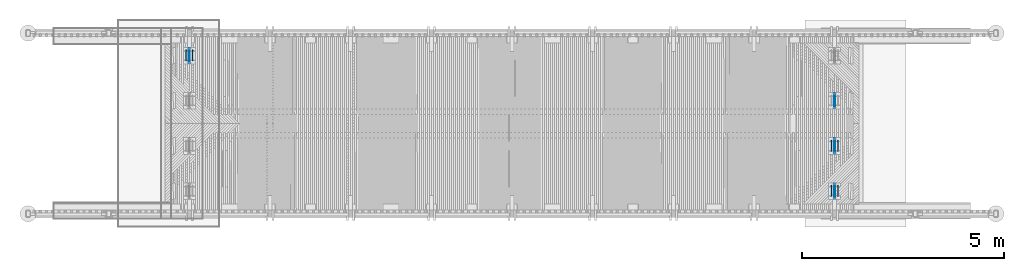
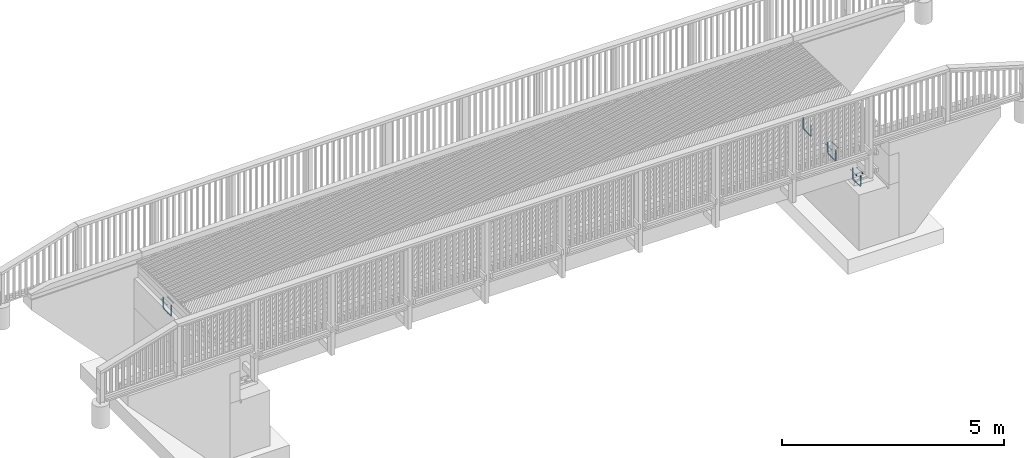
# One storey, part 2 of 52: 8 reinforcing bars, 3 mechanical fasteners.
"""IFC2X3 building model written with IfcOpenShell, lengths in millimetres."""

from ifc_helpers import new_model, si_unit, frame, origin_with_axes, place, context, subcontext, project, spatial, faceted_brep, source, transform, mapped, material, type_object, element, save


model = new_model("IFC2X3")

# Units and contexts
model_context = context("Model", 3, precision=1e-05, world=origin_with_axes())
body_context = subcontext(model_context, "Body", "Model", "MODEL_VIEW")
ifc_project = project(units=[si_unit("LENGTHUNIT", "METRE", prefix="MILLI"), si_unit("AREAUNIT", "SQUARE_METRE"), si_unit("VOLUMEUNIT", "CUBIC_METRE"), si_unit("MASSUNIT", "GRAM", prefix="KILO"), si_unit("TIMEUNIT", "SECOND"), si_unit("PLANEANGLEUNIT", "RADIAN"), si_unit("SOLIDANGLEUNIT", "STERADIAN"), si_unit("THERMODYNAMICTEMPERATUREUNIT", "DEGREE_CELSIUS"), si_unit("LUMINOUSINTENSITYUNIT", "LUMEN")], contexts=[model_context])

# Site, building, storey
site_placement = place(None, origin_with_axes())
site = spatial("IfcSite", under=ifc_project, at=site_placement, Name="Undefined", CompositionType="ELEMENT")
building_placement = place(site_placement, origin_with_axes())
building = spatial("IfcBuilding", under=site, at=building_placement, Name="Undefined", CompositionType="ELEMENT")
storey_placement = place(building_placement, origin_with_axes())
storey = spatial("IfcBuildingStorey", under=building, at=storey_placement, Name="Undefined", CompositionType="ELEMENT", Elevation=0.0)

# Reinforcing bars
ifc_material_1 = material(Name="A500HW")
shared_shape_1 = source(origin_with_axes(), body_context, "Body", "Brep", [
    faceted_brep([(9.95929214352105, -5.74999999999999, -1.31778448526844e-16), (9.95929214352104, 5.75000000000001, -1.31778448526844e-16), (-4.46864767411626e-15, 11.5, 5.31556664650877e-32), (-9.95929214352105, 5.75, 1.31778448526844e-16), (-9.95929214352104, -5.75, 1.31778448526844e-16), (0.0, -11.5, 0.0), (-9.95929214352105, -5.75, -268.5), (-3.5527136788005e-15, -11.5, -268.5), (-9.95929214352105, 5.75, -268.5), (-8.02136135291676e-15, 11.5, -268.5), (9.95929214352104, 5.75000000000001, -268.5), (9.95929214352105, -5.74999999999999, -268.5), (-4.40480021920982, -5.75, -289.229646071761), (4.22019978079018, -11.5, -284.25), (-4.40480021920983, 5.75, -289.229646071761), (4.22019978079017, 11.5, -284.25), (12.8451997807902, 5.75000000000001, -279.27035392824), (12.8451997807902, -5.74999999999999, -279.27035392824), (10.7703539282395, -5.75, -304.40480021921), (15.75, -11.5, -295.77980021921), (10.7703539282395, 5.75, -304.40480021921), (15.75, 11.5, -295.77980021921), (20.7296460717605, 5.75000000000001, -287.15480021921), (20.7296460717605, -5.74999999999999, -287.15480021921), (31.5, -5.75, -309.959292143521), (31.5, -11.5, -300.0), (31.5, 5.75, -309.959292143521), (31.5, 11.5, -300.0), (31.5, 5.75000000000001, -290.040707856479), (31.5, -5.74999999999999, -290.040707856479), (323.5, -5.75, -309.959292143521), (323.5, -11.5, -300.0), (323.5, 5.75, -309.959292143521), (323.5, 11.5, -300.0), (323.5, 5.75000000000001, -290.040707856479), (323.5, -5.74999999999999, -290.040707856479), (344.229646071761, -5.75, -304.40480021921), (339.25, -11.5, -295.77980021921), (344.229646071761, 5.75, -304.40480021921), (339.25, 11.5, -295.77980021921), (334.270353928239, 5.75000000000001, -287.15480021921), (334.270353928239, -5.74999999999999, -287.15480021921), (359.40480021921, -5.75, -289.229646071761), (350.77980021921, -11.5, -284.25), (359.40480021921, 5.75, -289.229646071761), (350.77980021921, 11.5, -284.25), (342.15480021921, 5.75000000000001, -279.27035392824), (342.15480021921, -5.74999999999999, -279.27035392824), (364.959292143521, -5.75, -268.5), (355.0, -11.5, -268.5), (364.959292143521, 5.75, -268.5), (355.0, 11.5, -268.5), (345.040707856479, 5.75000000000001, -268.5), (345.040707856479, -5.74999999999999, -268.5), (364.959292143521, -5.75, 0.0), (355.0, -11.5, 0.0), (364.959292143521, 5.75, 0.0), (355.0, 11.5, 0.0), (345.040707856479, 5.75000000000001, 0.0), (345.040707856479, -5.74999999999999, 0.0)], [[[0, 1, 2, 3, 4, 5]], [[5, 4, 6, 7]], [[4, 3, 8, 6]], [[3, 2, 9, 8]], [[2, 1, 10, 9]], [[1, 0, 11, 10]], [[0, 5, 7, 11]], [[7, 6, 12, 13]], [[6, 8, 14, 12]], [[8, 9, 15, 14]], [[9, 10, 16, 15]], [[10, 11, 17, 16]], [[11, 7, 13, 17]], [[13, 12, 18, 19]], [[12, 14, 20, 18]], [[14, 15, 21, 20]], [[15, 16, 22, 21]], [[16, 17, 23, 22]], [[17, 13, 19, 23]], [[19, 18, 24, 25]], [[18, 20, 26, 24]], [[20, 21, 27, 26]], [[21, 22, 28, 27]], [[22, 23, 29, 28]], [[23, 19, 25, 29]], [[25, 24, 30, 31]], [[24, 26, 32, 30]], [[26, 27, 33, 32]], [[27, 28, 34, 33]], [[28, 29, 35, 34]], [[29, 25, 31, 35]], [[31, 30, 36, 37]], [[30, 32, 38, 36]], [[32, 33, 39, 38]], [[33, 34, 40, 39]], [[34, 35, 41, 40]], [[35, 31, 37, 41]], [[37, 36, 42, 43]], [[36, 38, 44, 42]], [[38, 39, 45, 44]], [[39, 40, 46, 45]], [[40, 41, 47, 46]], [[41, 37, 43, 47]], [[43, 42, 48, 49]], [[42, 44, 50, 48]], [[44, 45, 51, 50]], [[45, 46, 52, 51]], [[46, 47, 53, 52]], [[47, 43, 49, 53]], [[49, 48, 54, 55]], [[48, 50, 56, 54]], [[50, 51, 57, 56]], [[51, 52, 58, 57]], [[52, 53, 59, 58]], [[53, 49, 55, 59]], [[55, 54, 56, 57, 58, 59]]]),
])
for number, where, z_axis, x_axis, name in (
    (1, (16000.0, 3102.50000000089, 1637.32999999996), (0.0, 0.0, 1.0), (0.0, -1.0, 0.0), "REBAR"),
    (2, (16000.0, 1627.5, 1637.32999999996), (0.0, 0.0, 1.0), (0.0, 1.0, 0.0), "REBAR"),
    (3, (16000.0, 507.5, 1615.32999999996), (0.0, 0.0, 1.0), (0.0, 1.0, 0.0), "REBAR"),
    (4, (16000.0, 507.5, 1615.32999999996), (0.0, 0.0, 1.0), (0.0, 1.0, 0.0), "REBAR"),
    (5, (16000.0, 1627.5, 1637.32999999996), (0.0, 0.0, 1.0), (0.0, 1.0, 0.0), "REBAR"),
    (6, (16000.0, 3102.50000000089, 1637.32999999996), (0.0, 0.0, 1.0), (0.0, -1.0, 0.0), "REBAR"),
    (7, (0.0, 4222.50000000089, 1615.32999999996), (0.0, 0.0, 1.0), (0.0, -1.0, 0.0), "REBAR"),
    (8, (0.0, 4222.50000000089, 1615.32999999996), (0.0, 0.0, 1.0), (0.0, -1.0, 0.0), "REBAR"),
):
    element("IfcReinforcingBar", number, at=place(storey_placement, frame(where, z_axis=z_axis, x_axis=x_axis)), inside=storey, material=ifc_material_1, Name=name, BarRole="NOTDEFINED", CrossSectionArea=0.0, NominalDiameter=23.0, context=body_context, shape_type="MappedRepresentation", body=[
        mapped(shared_shape_1, transform((0.0, 0.0, 420.0))),
    ])

# Mechanical fasteners
ifc_material_2 = material(Name="Undefined")
mechanical_fastener_type = type_object("IfcMechanicalFastenerType", Name="Bolt assembly")
shared_shape_2 = source(origin_with_axes(), body_context, "Body", "Brep", [
    faceted_brep([(17.3205080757, -238.7, 0.0), (8.66025403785, -238.7, 15.0000000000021), (-8.66025403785, -238.7, 15.0000000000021), (-17.3205080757, -238.7, 0.0), (-8.66025403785, -238.7, -15.0000000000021), (8.66025403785, -238.7, -15.0000000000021), (8.66025403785, -225.5, -15.0000000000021), (-8.66025403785, -225.5, -15.0000000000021), (-17.3205080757, -225.5, 0.0), (-8.66025403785, -225.5, 15.0000000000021), (8.66025403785, -225.5, 15.0000000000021), (17.3205080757, -225.5, 0.0), (10.0, -225.5, 0.0), (8.66025403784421, -225.5, 5.0000000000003), (4.9999999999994, -225.5, 8.66025403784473), (-1.03633598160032e-12, -225.5, 10.0), (-5.00000000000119, -225.5, 8.6602540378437), (-8.66025403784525, -225.5, 4.99999999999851), (-10.0, -225.5, -2.07267196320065e-12), (-8.66025403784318, -225.5, -5.00000000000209), (-4.99999999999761, -225.5, -8.66025403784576), (3.09790571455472e-12, -225.5, -10.0), (5.00000000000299, -225.5, -8.66025403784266), (8.66025403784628, -225.5, -4.99999999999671), (8.66025403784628, 44.5, -4.99999999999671), (5.00000000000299, 44.5, -8.66025403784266), (3.09790571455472e-12, 44.5, -10.0), (-4.99999999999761, 44.5, -8.66025403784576), (-8.66025403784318, 44.5, -5.00000000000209), (-10.0, 44.5, -2.07267196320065e-12), (-8.66025403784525, 44.5, 4.99999999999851), (-5.00000000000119, 44.5, 8.6602540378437), (-1.03633598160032e-12, 44.5, 10.0), (4.9999999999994, 44.5, 8.66025403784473), (8.66025403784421, 44.5, 5.0000000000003), (10.0, 44.5, 0.0), (18.5, -225.5, 0.0), (16.0214699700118, -225.5, 9.25000000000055), (9.2499999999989, -225.5, 16.0214699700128), (-1.9172215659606e-12, -225.5, 18.5), (-9.25000000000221, -225.5, 16.0214699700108), (-16.0214699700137, -225.5, 9.24999999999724), (-18.5, -225.5, -3.83444313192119e-12), (-16.0214699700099, -225.5, -9.25000000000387), (-9.24999999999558, -225.5, -16.0214699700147), (5.73112557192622e-12, -225.5, -18.5), (9.25000000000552, -225.5, -16.0214699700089), (16.0214699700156, -225.5, -9.24999999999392), (16.0214699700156, -222.5, -9.24999999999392), (9.25000000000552, -222.5, -16.0214699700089), (5.73112557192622e-12, -222.5, -18.5), (-9.24999999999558, -222.5, -16.0214699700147), (-16.0214699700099, -222.5, -9.25000000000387), (-18.5, -222.5, -3.83444313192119e-12), (-16.0214699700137, -222.5, 9.24999999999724), (-9.25000000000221, -222.5, 16.0214699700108), (-1.9172215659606e-12, -222.5, 18.5), (9.2499999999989, -222.5, 16.0214699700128), (16.0214699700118, -222.5, 9.25000000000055), (18.5, -222.5, 0.0), (18.5, 12.5, 0.0), (16.0214699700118, 12.5, 9.25000000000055), (9.2499999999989, 12.5, 16.0214699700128), (-1.9172215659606e-12, 12.5, 18.5), (-9.25000000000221, 12.5, 16.0214699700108), (-16.0214699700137, 12.5, 9.24999999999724), (-18.5, 12.5, -3.83444313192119e-12), (-16.0214699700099, 12.5, -9.25000000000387), (-9.24999999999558, 12.5, -16.0214699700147), (5.73112557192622e-12, 12.5, -18.5), (9.25000000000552, 12.5, -16.0214699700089), (16.0214699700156, 12.5, -9.24999999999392), (16.0214699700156, 15.5, -9.24999999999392), (9.25000000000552, 15.5, -16.0214699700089), (5.73112557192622e-12, 15.5, -18.5), (-9.24999999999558, 15.5, -16.0214699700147), (-16.0214699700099, 15.5, -9.25000000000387), (-18.5, 15.5, -3.83444313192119e-12), (-16.0214699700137, 15.5, 9.24999999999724), (-9.25000000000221, 15.5, 16.0214699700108), (-1.9172215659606e-12, 15.5, 18.5), (9.2499999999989, 15.5, 16.0214699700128), (16.0214699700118, 15.5, 9.25000000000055), (18.5, 15.5, 0.0), (17.3205080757, 15.5, 0.0), (8.66025403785, 15.5, 15.0000000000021), (-8.66025403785, 15.5, 15.0000000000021), (-17.3205080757, 15.5, 0.0), (-8.66025403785, 15.5, -15.0000000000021), (8.66025403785, 15.5, -15.0000000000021), (8.66025403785, 31.5, -15.0000000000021), (-8.66025403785, 31.5, -15.0000000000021), (-17.3205080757, 31.5, 0.0), (-8.66025403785, 31.5, 15.0000000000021), (8.66025403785, 31.5, 15.0000000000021), (17.3205080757, 31.5, 0.0)], [[[0, 1, 2, 3, 4, 5]], [[6, 7, 8, 9, 10, 11]], [[0, 11, 10, 1]], [[1, 10, 9, 2]], [[2, 9, 8, 3]], [[3, 8, 7, 4]], [[4, 7, 6, 5]], [[5, 6, 11, 0]], [[12, 13, 14, 15, 16, 17, 18, 19, 20, 21, 22, 23]], [[24, 25, 26, 27, 28, 29, 30, 31, 32, 33, 34, 35]], [[12, 35, 34, 13]], [[13, 34, 33, 14]], [[14, 33, 32, 15]], [[15, 32, 31, 16]], [[16, 31, 30, 17]], [[17, 30, 29, 18]], [[18, 29, 28, 19]], [[19, 28, 27, 20]], [[20, 27, 26, 21]], [[21, 26, 25, 22]], [[22, 25, 24, 23]], [[23, 24, 35, 12]], [[36, 37, 38, 39, 40, 41, 42, 43, 44, 45, 46, 47]], [[48, 49, 50, 51, 52, 53, 54, 55, 56, 57, 58, 59]], [[36, 59, 58, 37]], [[37, 58, 57, 38]], [[38, 57, 56, 39]], [[39, 56, 55, 40]], [[40, 55, 54, 41]], [[41, 54, 53, 42]], [[42, 53, 52, 43]], [[43, 52, 51, 44]], [[44, 51, 50, 45]], [[45, 50, 49, 46]], [[46, 49, 48, 47]], [[47, 48, 59, 36]], [[60, 61, 62, 63, 64, 65, 66, 67, 68, 69, 70, 71]], [[72, 73, 74, 75, 76, 77, 78, 79, 80, 81, 82, 83]], [[60, 83, 82, 61]], [[61, 82, 81, 62]], [[62, 81, 80, 63]], [[63, 80, 79, 64]], [[64, 79, 78, 65]], [[65, 78, 77, 66]], [[66, 77, 76, 67]], [[67, 76, 75, 68]], [[68, 75, 74, 69]], [[69, 74, 73, 70]], [[70, 73, 72, 71]], [[71, 72, 83, 60]], [[84, 85, 86, 87, 88, 89]], [[90, 91, 92, 93, 94, 95]], [[84, 95, 94, 85]], [[85, 94, 93, 86]], [[86, 93, 92, 87]], [[87, 92, 91, 88]], [[88, 91, 90, 89]], [[89, 90, 95, 84]]]),
    faceted_brep([(11.0, 2.4, 0.0), (9.52627944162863, 2.4, 5.50000000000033), (5.49999999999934, 2.4, 9.5262794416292), (-1.13996957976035e-12, 2.4, 11.0), (-5.50000000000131, 2.4, 9.52627944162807), (-9.52627944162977, 2.4, 5.49999999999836), (-11.0, 2.4, -2.27993915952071e-12), (-9.5262794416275, 2.4, -5.5000000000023), (-5.49999999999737, 2.4, -9.52627944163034), (3.40769628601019e-12, 2.4, -11.0), (5.50000000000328, 2.4, -9.52627944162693), (9.52627944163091, 2.4, -5.49999999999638), (9.52627944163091, 12.5, -5.49999999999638), (5.50000000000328, 12.5, -9.52627944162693), (3.40769628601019e-12, 12.5, -11.0), (-5.49999999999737, 12.5, -9.52627944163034), (-9.5262794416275, 12.5, -5.5000000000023), (-11.0, 12.5, -2.27993915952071e-12), (-9.52627944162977, 12.5, 5.49999999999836), (-5.50000000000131, 12.5, 9.52627944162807), (-1.13996957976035e-12, 12.5, 11.0), (5.49999999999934, 12.5, 9.5262794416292), (9.52627944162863, 12.5, 5.50000000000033), (11.0, 12.5, 0.0), (11.0, -212.500000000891, 0.0), (9.52627944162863, -212.500000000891, 5.50000000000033), (5.49999999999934, -212.500000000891, 9.5262794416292), (-1.13996957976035e-12, -212.500000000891, 11.0), (-5.50000000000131, -212.500000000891, 9.52627944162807), (-9.52627944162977, -212.500000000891, 5.49999999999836), (-11.0, -212.500000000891, -2.27993915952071e-12), (-9.5262794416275, -212.500000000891, -5.5000000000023), (-5.49999999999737, -212.500000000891, -9.52627944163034), (3.40769628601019e-12, -212.500000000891, -11.0), (5.50000000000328, -212.500000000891, -9.52627944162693), (9.52627944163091, -212.500000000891, -5.49999999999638), (9.52627944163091, 2.4999999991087, -5.49999999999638), (5.50000000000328, 2.4999999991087, -9.52627944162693), (3.40769628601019e-12, 2.4999999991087, -11.0), (-5.49999999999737, 2.4999999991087, -9.52627944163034), (-9.5262794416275, 2.4999999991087, -5.5000000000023), (-11.0, 2.4999999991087, -2.27993915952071e-12), (-9.52627944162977, 2.4999999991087, 5.49999999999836), (-5.50000000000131, 2.4999999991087, 9.52627944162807), (-1.13996957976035e-12, 2.4999999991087, 11.0), (5.49999999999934, 2.4999999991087, 9.5262794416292), (9.52627944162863, 2.4999999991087, 5.50000000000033), (11.0, 2.4999999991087, 0.0), (11.0, -222.4, 0.0), (9.52627944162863, -222.4, 5.50000000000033), (5.49999999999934, -222.4, 9.5262794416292), (-1.13996957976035e-12, -222.4, 11.0), (-5.50000000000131, -222.4, 9.52627944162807), (-9.52627944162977, -222.4, 5.49999999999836), (-11.0, -222.4, -2.27993915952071e-12), (-9.5262794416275, -222.4, -5.5000000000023), (-5.49999999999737, -222.4, -9.52627944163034), (3.40769628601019e-12, -222.4, -11.0), (5.50000000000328, -222.4, -9.52627944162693), (9.52627944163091, -222.4, -5.49999999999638), (9.52627944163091, -212.4, -5.49999999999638), (5.50000000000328, -212.4, -9.52627944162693), (3.40769628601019e-12, -212.4, -11.0), (-5.49999999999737, -212.4, -9.52627944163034), (-9.5262794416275, -212.4, -5.5000000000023), (-11.0, -212.4, -2.27993915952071e-12), (-9.52627944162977, -212.4, 5.49999999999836), (-5.50000000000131, -212.4, 9.52627944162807), (-1.13996957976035e-12, -212.4, 11.0), (5.49999999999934, -212.4, 9.5262794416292), (9.52627944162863, -212.4, 5.50000000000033), (11.0, -212.4, 0.0)], [[[0, 1, 2, 3, 4, 5, 6, 7, 8, 9, 10, 11]], [[12, 13, 14, 15, 16, 17, 18, 19, 20, 21, 22, 23]], [[0, 23, 22, 1]], [[1, 22, 21, 2]], [[2, 21, 20, 3]], [[3, 20, 19, 4]], [[4, 19, 18, 5]], [[5, 18, 17, 6]], [[6, 17, 16, 7]], [[7, 16, 15, 8]], [[8, 15, 14, 9]], [[9, 14, 13, 10]], [[10, 13, 12, 11]], [[11, 12, 23, 0]], [[24, 25, 26, 27, 28, 29, 30, 31, 32, 33, 34, 35]], [[36, 37, 38, 39, 40, 41, 42, 43, 44, 45, 46, 47]], [[24, 47, 46, 25]], [[25, 46, 45, 26]], [[26, 45, 44, 27]], [[27, 44, 43, 28]], [[28, 43, 42, 29]], [[29, 42, 41, 30]], [[30, 41, 40, 31]], [[31, 40, 39, 32]], [[32, 39, 38, 33]], [[33, 38, 37, 34]], [[34, 37, 36, 35]], [[35, 36, 47, 24]], [[48, 49, 50, 51, 52, 53, 54, 55, 56, 57, 58, 59]], [[60, 61, 62, 63, 64, 65, 66, 67, 68, 69, 70, 71]], [[48, 71, 70, 49]], [[49, 70, 69, 50]], [[50, 69, 68, 51]], [[51, 68, 67, 52]], [[52, 67, 66, 53]], [[53, 66, 65, 54]], [[54, 65, 64, 55]], [[55, 64, 63, 56]], [[56, 63, 62, 57]], [[57, 62, 61, 58]], [[58, 61, 60, 59]], [[59, 60, 71, 48]]]),
])
mechanical_fastener_placement = place(storey_placement, frame((-80.0, 4150.00000000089, 2045.33), z_axis=(0.0, 0.0, 1.0), x_axis=(1.0, 0.0, 0.0)))
element("IfcMechanicalFastener", 9, at=mechanical_fastener_placement, inside=storey, type_object=mechanical_fastener_type, material=ifc_material_2, Name="Bolt assembly", NominalDiameter=20.0, NominalLength=270.0, context=body_context, shape_type="MappedRepresentation", body=[
    mapped(shared_shape_2, transform((0.0, 0.0, 0.0))),
    mapped(shared_shape_2, transform((160.0, 0.0, 0.0))),
])
shared_shape_3 = source(origin_with_axes(), body_context, "Body", "Brep", [
    faceted_brep([(17.3205080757, -28.7, 0.0), (8.66025403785, -28.7, 15.0000000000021), (-8.66025403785, -28.7, 15.0000000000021), (-17.3205080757, -28.7, 0.0), (-8.66025403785, -28.7, -15.0000000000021), (8.66025403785, -28.7, -15.0000000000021), (8.66025403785, -15.5, -15.0000000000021), (-8.66025403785, -15.5, -15.0000000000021), (-17.3205080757, -15.5, 0.0), (-8.66025403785, -15.5, 15.0000000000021), (8.66025403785, -15.5, 15.0000000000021), (17.3205080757, -15.5, 0.0), (10.0, -15.5, 0.0), (8.66025403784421, -15.5, 5.0000000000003), (4.9999999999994, -15.5, 8.66025403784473), (-1.03633598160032e-12, -15.5, 10.0), (-5.00000000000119, -15.5, 8.6602540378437), (-8.66025403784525, -15.5, 4.99999999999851), (-10.0, -15.5, -2.07267196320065e-12), (-8.66025403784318, -15.5, -5.00000000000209), (-4.99999999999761, -15.5, -8.66025403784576), (3.09790571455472e-12, -15.5, -10.0), (5.00000000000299, -15.5, -8.66025403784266), (8.66025403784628, -15.5, -4.99999999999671), (8.66025403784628, 254.5, -4.99999999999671), (5.00000000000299, 254.5, -8.66025403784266), (3.09790571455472e-12, 254.5, -10.0), (-4.99999999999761, 254.5, -8.66025403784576), (-8.66025403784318, 254.5, -5.00000000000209), (-10.0, 254.5, -2.07267196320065e-12), (-8.66025403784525, 254.5, 4.99999999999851), (-5.00000000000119, 254.5, 8.6602540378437), (-1.03633598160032e-12, 254.5, 10.0), (4.9999999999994, 254.5, 8.66025403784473), (8.66025403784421, 254.5, 5.0000000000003), (10.0, 254.5, 0.0), (18.5, -15.5, 0.0), (16.0214699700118, -15.5, 9.25000000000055), (9.2499999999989, -15.5, 16.0214699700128), (-1.9172215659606e-12, -15.5, 18.5), (-9.25000000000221, -15.5, 16.0214699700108), (-16.0214699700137, -15.5, 9.24999999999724), (-18.5, -15.5, -3.83444313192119e-12), (-16.0214699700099, -15.5, -9.25000000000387), (-9.24999999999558, -15.5, -16.0214699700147), (5.73112557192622e-12, -15.5, -18.5), (9.25000000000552, -15.5, -16.0214699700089), (16.0214699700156, -15.5, -9.24999999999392), (16.0214699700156, -12.5, -9.24999999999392), (9.25000000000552, -12.5, -16.0214699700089), (5.73112557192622e-12, -12.5, -18.5), (-9.24999999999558, -12.5, -16.0214699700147), (-16.0214699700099, -12.5, -9.25000000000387), (-18.5, -12.5, -3.83444313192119e-12), (-16.0214699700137, -12.5, 9.24999999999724), (-9.25000000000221, -12.5, 16.0214699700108), (-1.9172215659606e-12, -12.5, 18.5), (9.2499999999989, -12.5, 16.0214699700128), (16.0214699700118, -12.5, 9.25000000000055), (18.5, -12.5, 0.0), (18.5, 222.5, 0.0), (16.0214699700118, 222.5, 9.25000000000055), (9.2499999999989, 222.5, 16.0214699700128), (-1.9172215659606e-12, 222.5, 18.5), (-9.25000000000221, 222.5, 16.0214699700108), (-16.0214699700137, 222.5, 9.24999999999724), (-18.5, 222.5, -3.83444313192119e-12), (-16.0214699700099, 222.5, -9.25000000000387), (-9.24999999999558, 222.5, -16.0214699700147), (5.73112557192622e-12, 222.5, -18.5), (9.25000000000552, 222.5, -16.0214699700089), (16.0214699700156, 222.5, -9.24999999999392), (16.0214699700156, 225.5, -9.24999999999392), (9.25000000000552, 225.5, -16.0214699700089), (5.73112557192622e-12, 225.5, -18.5), (-9.24999999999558, 225.5, -16.0214699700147), (-16.0214699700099, 225.5, -9.25000000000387), (-18.5, 225.5, -3.83444313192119e-12), (-16.0214699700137, 225.5, 9.24999999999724), (-9.25000000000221, 225.5, 16.0214699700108), (-1.9172215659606e-12, 225.5, 18.5), (9.2499999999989, 225.5, 16.0214699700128), (16.0214699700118, 225.5, 9.25000000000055), (18.5, 225.5, 0.0), (17.3205080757, 225.5, 0.0), (8.66025403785, 225.5, 15.0000000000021), (-8.66025403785, 225.5, 15.0000000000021), (-17.3205080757, 225.5, 0.0), (-8.66025403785, 225.5, -15.0000000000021), (8.66025403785, 225.5, -15.0000000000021), (8.66025403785, 241.5, -15.0000000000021), (-8.66025403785, 241.5, -15.0000000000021), (-17.3205080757, 241.5, 0.0), (-8.66025403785, 241.5, 15.0000000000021), (8.66025403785, 241.5, 15.0000000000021), (17.3205080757, 241.5, 0.0)], [[[0, 1, 2, 3, 4, 5]], [[6, 7, 8, 9, 10, 11]], [[0, 11, 10, 1]], [[1, 10, 9, 2]], [[2, 9, 8, 3]], [[3, 8, 7, 4]], [[4, 7, 6, 5]], [[5, 6, 11, 0]], [[12, 13, 14, 15, 16, 17, 18, 19, 20, 21, 22, 23]], [[24, 25, 26, 27, 28, 29, 30, 31, 32, 33, 34, 35]], [[12, 35, 34, 13]], [[13, 34, 33, 14]], [[14, 33, 32, 15]], [[15, 32, 31, 16]], [[16, 31, 30, 17]], [[17, 30, 29, 18]], [[18, 29, 28, 19]], [[19, 28, 27, 20]], [[20, 27, 26, 21]], [[21, 26, 25, 22]], [[22, 25, 24, 23]], [[23, 24, 35, 12]], [[36, 37, 38, 39, 40, 41, 42, 43, 44, 45, 46, 47]], [[48, 49, 50, 51, 52, 53, 54, 55, 56, 57, 58, 59]], [[36, 59, 58, 37]], [[37, 58, 57, 38]], [[38, 57, 56, 39]], [[39, 56, 55, 40]], [[40, 55, 54, 41]], [[41, 54, 53, 42]], [[42, 53, 52, 43]], [[43, 52, 51, 44]], [[44, 51, 50, 45]], [[45, 50, 49, 46]], [[46, 49, 48, 47]], [[47, 48, 59, 36]], [[60, 61, 62, 63, 64, 65, 66, 67, 68, 69, 70, 71]], [[72, 73, 74, 75, 76, 77, 78, 79, 80, 81, 82, 83]], [[60, 83, 82, 61]], [[61, 82, 81, 62]], [[62, 81, 80, 63]], [[63, 80, 79, 64]], [[64, 79, 78, 65]], [[65, 78, 77, 66]], [[66, 77, 76, 67]], [[67, 76, 75, 68]], [[68, 75, 74, 69]], [[69, 74, 73, 70]], [[70, 73, 72, 71]], [[71, 72, 83, 60]], [[84, 85, 86, 87, 88, 89]], [[90, 91, 92, 93, 94, 95]], [[84, 95, 94, 85]], [[85, 94, 93, 86]], [[86, 93, 92, 87]], [[87, 92, 91, 88]], [[88, 91, 90, 89]], [[89, 90, 95, 84]]]),
    faceted_brep([(11.0, -12.4, 0.0), (9.52627944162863, -12.4, 5.50000000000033), (5.49999999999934, -12.4, 9.5262794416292), (-1.13996957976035e-12, -12.4, 11.0), (-5.50000000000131, -12.4, 9.52627944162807), (-9.52627944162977, -12.4, 5.49999999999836), (-11.0, -12.4, -2.27993915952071e-12), (-9.5262794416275, -12.4, -5.5000000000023), (-5.49999999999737, -12.4, -9.52627944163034), (3.40769628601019e-12, -12.4, -11.0), (5.50000000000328, -12.4, -9.52627944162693), (9.52627944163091, -12.4, -5.49999999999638), (9.52627944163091, -2.4, -5.49999999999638), (5.50000000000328, -2.4, -9.52627944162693), (3.40769628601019e-12, -2.4, -11.0), (-5.49999999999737, -2.4, -9.52627944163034), (-9.5262794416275, -2.4, -5.5000000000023), (-11.0, -2.4, -2.27993915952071e-12), (-9.52627944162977, -2.4, 5.49999999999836), (-5.50000000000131, -2.4, 9.52627944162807), (-1.13996957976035e-12, -2.4, 11.0), (5.49999999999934, -2.4, 9.5262794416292), (9.52627944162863, -2.4, 5.50000000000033), (11.0, -2.4, 0.0), (11.0, 212.4, 0.0), (9.52627944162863, 212.4, 5.50000000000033), (5.49999999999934, 212.4, 9.5262794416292), (-1.13996957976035e-12, 212.4, 11.0), (-5.50000000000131, 212.4, 9.52627944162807), (-9.52627944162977, 212.4, 5.49999999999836), (-11.0, 212.4, -2.27993915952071e-12), (-9.5262794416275, 212.4, -5.5000000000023), (-5.49999999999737, 212.4, -9.52627944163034), (3.40769628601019e-12, 212.4, -11.0), (5.50000000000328, 212.4, -9.52627944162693), (9.52627944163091, 212.4, -5.49999999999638), (9.52627944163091, 222.5, -5.49999999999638), (5.50000000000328, 222.5, -9.52627944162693), (3.40769628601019e-12, 222.5, -11.0), (-5.49999999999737, 222.5, -9.52627944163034), (-9.5262794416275, 222.5, -5.5000000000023), (-11.0, 222.5, -2.27993915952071e-12), (-9.52627944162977, 222.5, 5.49999999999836), (-5.50000000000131, 222.5, 9.52627944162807), (-1.13996957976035e-12, 222.5, 11.0), (5.49999999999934, 222.5, 9.5262794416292), (9.52627944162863, 222.5, 5.50000000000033), (11.0, 222.5, 0.0)], [[[0, 1, 2, 3, 4, 5, 6, 7, 8, 9, 10, 11]], [[12, 13, 14, 15, 16, 17, 18, 19, 20, 21, 22, 23]], [[0, 23, 22, 1]], [[1, 22, 21, 2]], [[2, 21, 20, 3]], [[3, 20, 19, 4]], [[4, 19, 18, 5]], [[5, 18, 17, 6]], [[6, 17, 16, 7]], [[7, 16, 15, 8]], [[8, 15, 14, 9]], [[9, 14, 13, 10]], [[10, 13, 12, 11]], [[11, 12, 23, 0]], [[24, 25, 26, 27, 28, 29, 30, 31, 32, 33, 34, 35]], [[36, 37, 38, 39, 40, 41, 42, 43, 44, 45, 46, 47]], [[24, 47, 46, 25]], [[25, 46, 45, 26]], [[26, 45, 44, 27]], [[27, 44, 43, 28]], [[28, 43, 42, 29]], [[29, 42, 41, 30]], [[30, 41, 40, 31]], [[31, 40, 39, 32]], [[32, 39, 38, 33]], [[33, 38, 37, 34]], [[34, 37, 36, 35]], [[35, 36, 47, 24]]]),
])
for number, where, z_axis, x_axis, name in (
    (10, (16080.0, 1700.0, 2067.33), (0.0, 0.0, -1.0), (-1.0, 0.0, 0.0), "Bolt assembly"),
    (11, (16080.0, 580.0, 2045.33), (0.0, 0.0, -1.0), (-1.0, 0.0, 0.0), "Bolt assembly"),
):
    element("IfcMechanicalFastener", number, at=place(storey_placement, frame(where, z_axis=z_axis, x_axis=x_axis)), inside=storey, type_object=mechanical_fastener_type, material=ifc_material_2, Name=name, NominalDiameter=20.0, NominalLength=270.0, context=body_context, shape_type="MappedRepresentation", body=[
        mapped(shared_shape_3, transform((0.0, 0.0, 0.0))),
        mapped(shared_shape_3, transform((160.0, 0.0, 0.0))),
    ])

save(model, "model.ifc")
